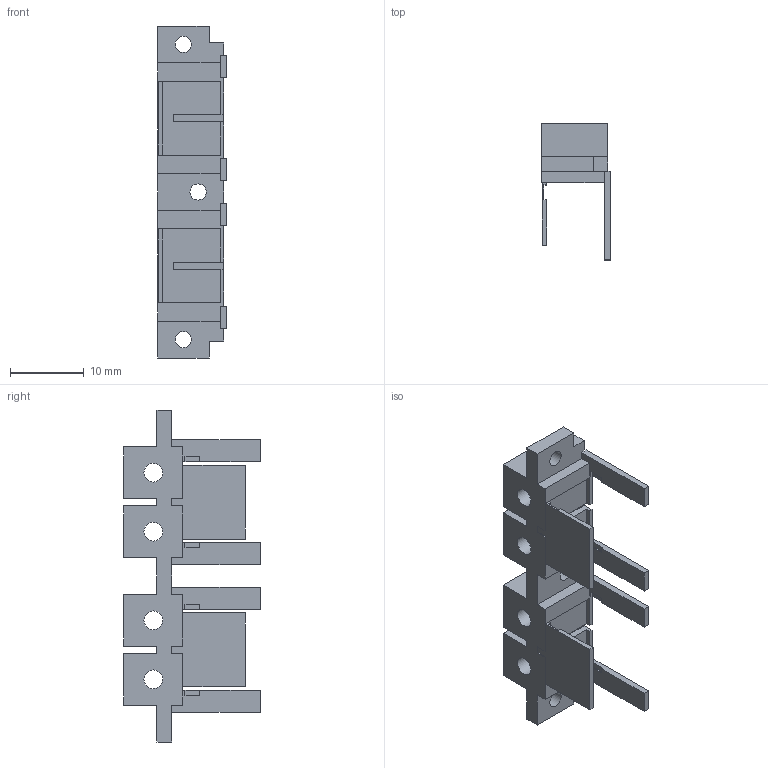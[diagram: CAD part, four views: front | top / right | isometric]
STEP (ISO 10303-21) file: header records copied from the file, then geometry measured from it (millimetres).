
FILE_DESCRIPTION(('Open CASCADE Model'),'2;1');
FILE_NAME('CASSETTE_VOLUME_DUAL_CNC','2026-09-06T11:49:22',('Author'),( 'Open CASCADE'),'Open CASCADE STEP processor 7.8','build123d', 'Unknown');
FILE_SCHEMA(('AUTOMOTIVE_DESIGN { 1 0 10303 214 1 1 1 1 }'));
Length unit declared in the file: millimetre
Products named in the file (1): CASSETTE_VOLUME_DUAL_CNC
Bounding box: 9.35 x 18.5 x 45 mm (x, y, z)
Volume: 1783 mm3; surface area: 2983.6 mm2
Topology: 1 solids, 1 shells, 133 faces, 385 edges, 254 vertices
Faces by surface type: plane 122, cylinder 11
Full cylindrical faces by diameter (mm): 2.2 x3, 2.55 x4, 6.1 x4
Entity records: 9320 total; most frequent: CARTESIAN_POINT 1607, DIRECTION 1409, LINE 1055, VECTOR 1055, ORIENTED_EDGE 770, PCURVE 770, DEFINITIONAL_REPRESENTATION 770, EDGE_CURVE 385
